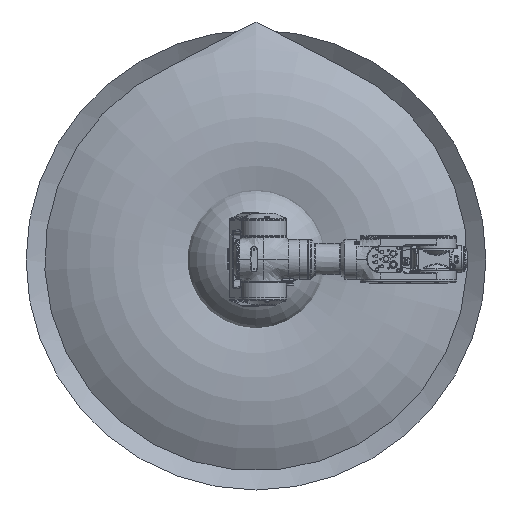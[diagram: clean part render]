
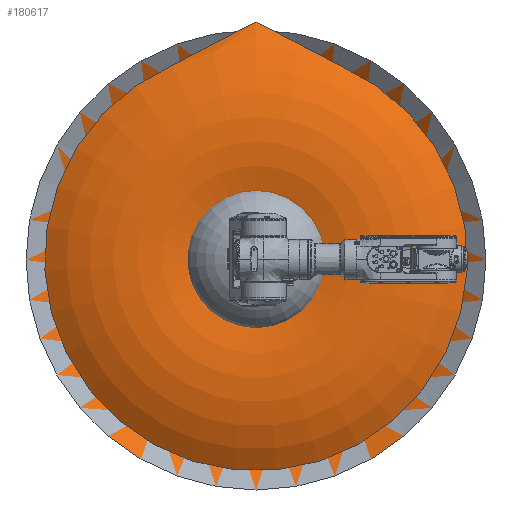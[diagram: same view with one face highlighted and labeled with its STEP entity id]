
A CAD part, top view. The second image highlights one B-rep face of the part: STEP entity #180617.
In plain terms, the highlighted toroidal (fillet/blend) face has major radius 306.037 mm and minor radius 445.706 mm.
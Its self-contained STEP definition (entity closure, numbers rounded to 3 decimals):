
#54194 = EDGE_CURVE ( 'NONE', #83890, #83890, #94588, .T. ) ;
#61589 = DIRECTION ( 'NONE',  ( 0., -1., 0. ) ) ;
#83890 = VERTEX_POINT ( 'NONE', #139493 ) ;
#88948 = ORIENTED_EDGE ( 'NONE', *, *, #54194, .T. ) ;
#94588 = CIRCLE ( 'NONE', #156411, 592.531 ) ;
#124373 = AXIS2_PLACEMENT_3D ( 'NONE', #150544, #189175, #204965 ) ;
#130023 = FACE_OUTER_BOUND ( 'NONE', #231743, .T. ) ;
#139493 = CARTESIAN_POINT ( 'NONE',  ( 0., -287.318, -592.531 ) ) ;
#150544 = CARTESIAN_POINT ( 'NONE',  ( 0., 54.113, 0. ) ) ;
#155843 = CARTESIAN_POINT ( 'NONE',  ( 0., -287.318, 0. ) ) ;
#156411 = AXIS2_PLACEMENT_3D ( 'NONE', #155843, #61589, #229573 ) ;
#159102 = TOROIDAL_SURFACE ( 'NONE', #124373, 306.037, 445.706 ) ;
#180617 = ADVANCED_FACE ( 'NONE', ( #130023 ), #159102, .T. ) ;
#189175 = DIRECTION ( 'NONE',  ( 0., -1., 0. ) ) ;
#204965 = DIRECTION ( 'NONE',  ( 0., 0., -1. ) ) ;
#229573 = DIRECTION ( 'NONE',  ( 0., 0., -1. ) ) ;
#231743 = EDGE_LOOP ( 'NONE', ( #88948 ) ) ;
